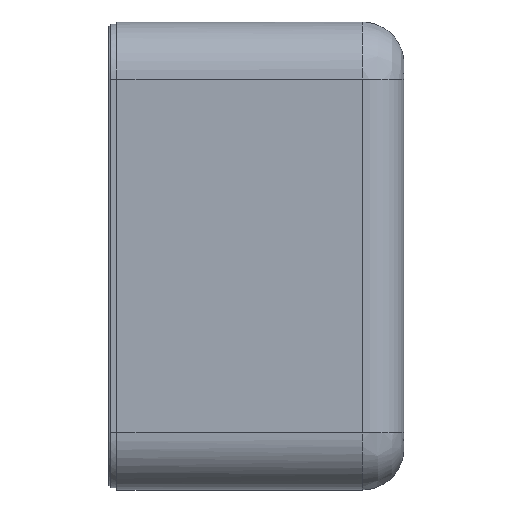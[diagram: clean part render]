
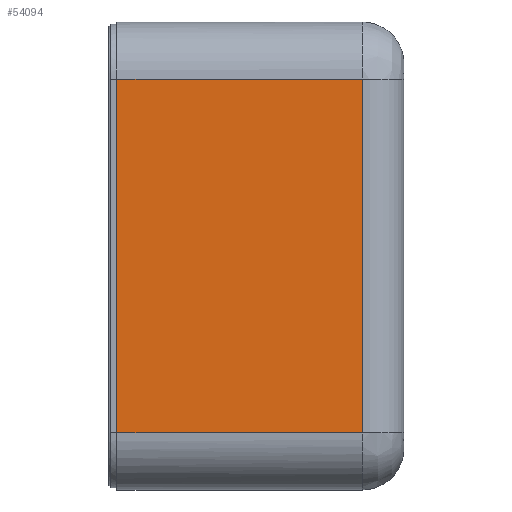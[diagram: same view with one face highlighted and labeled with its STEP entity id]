
A CAD part, left-side view. The second image highlights one B-rep face of the part: STEP entity #54094.
In plain terms, the highlighted planar face has unit normal (-1, 0, 0).
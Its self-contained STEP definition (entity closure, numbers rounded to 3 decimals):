
#15 = CARTESIAN_POINT ( 'NONE',  ( -8.166, -0.1, 4.253 ) ) ;
#1311 = ORIENTED_EDGE ( 'NONE', *, *, #18237, .T. ) ;
#1528 = VECTOR ( 'NONE', #72598, 39.37 ) ;
#7702 = VECTOR ( 'NONE', #46923, 39.37 ) ;
#8318 = VERTEX_POINT ( 'NONE', #53914 ) ;
#8748 = CARTESIAN_POINT ( 'NONE',  ( -8.166, -0.1, -4.253 ) ) ;
#9008 = DIRECTION ( 'NONE',  ( -1., 0., 0. ) ) ;
#10244 = VERTEX_POINT ( 'NONE', #18709 ) ;
#10665 = LINE ( 'NONE', #24397, #55394 ) ;
#12587 = ORIENTED_EDGE ( 'NONE', *, *, #46449, .T. ) ;
#18237 = EDGE_CURVE ( 'NONE', #10244, #61160, #55490, .T. ) ;
#18709 = CARTESIAN_POINT ( 'NONE',  ( -8.166, -5.9, -4.253 ) ) ;
#20155 = EDGE_CURVE ( 'NONE', #10244, #8318, #46186, .T. ) ;
#22585 = VECTOR ( 'NONE', #22594, 39.37 ) ;
#22594 = DIRECTION ( 'NONE',  ( 0., 0., 1. ) ) ;
#23156 = FACE_OUTER_BOUND ( 'NONE', #27244, .T. ) ;
#24397 = CARTESIAN_POINT ( 'NONE',  ( -8.166, 0., -4.253 ) ) ;
#27244 = EDGE_LOOP ( 'NONE', ( #35753, #1311, #12587, #67552 ) ) ;
#32972 = VERTEX_POINT ( 'NONE', #34253 ) ;
#34096 = AXIS2_PLACEMENT_3D ( 'NONE', #8748, #9008, #49791 ) ;
#34253 = CARTESIAN_POINT ( 'NONE',  ( -8.166, 0., 4.253 ) ) ;
#35753 = ORIENTED_EDGE ( 'NONE', *, *, #20155, .F. ) ;
#37472 = CARTESIAN_POINT ( 'NONE',  ( -8.166, -0.1, -4.253 ) ) ;
#40817 = EDGE_CURVE ( 'NONE', #8318, #32972, #10665, .T. ) ;
#43910 = PLANE ( 'NONE',  #34096 ) ;
#46186 = LINE ( 'NONE', #37472, #1528 ) ;
#46449 = EDGE_CURVE ( 'NONE', #61160, #32972, #69876, .T. ) ;
#46923 = DIRECTION ( 'NONE',  ( 0., 1., 0. ) ) ;
#48088 = DIRECTION ( 'NONE',  ( 0., 0., 1. ) ) ;
#49791 = DIRECTION ( 'NONE',  ( 0., 0., 1. ) ) ;
#53914 = CARTESIAN_POINT ( 'NONE',  ( -8.166, 0., -4.253 ) ) ;
#54094 = ADVANCED_FACE ( 'NONE', ( #23156 ), #43910, .T. ) ;
#55394 = VECTOR ( 'NONE', #48088, 39.37 ) ;
#55490 = LINE ( 'NONE', #69441, #22585 ) ;
#56262 = CARTESIAN_POINT ( 'NONE',  ( -8.166, -5.9, 4.253 ) ) ;
#61160 = VERTEX_POINT ( 'NONE', #56262 ) ;
#67552 = ORIENTED_EDGE ( 'NONE', *, *, #40817, .F. ) ;
#69441 = CARTESIAN_POINT ( 'NONE',  ( -8.166, -5.9, -4.253 ) ) ;
#69876 = LINE ( 'NONE', #15, #7702 ) ;
#72598 = DIRECTION ( 'NONE',  ( 0., 1., 0. ) ) ;
